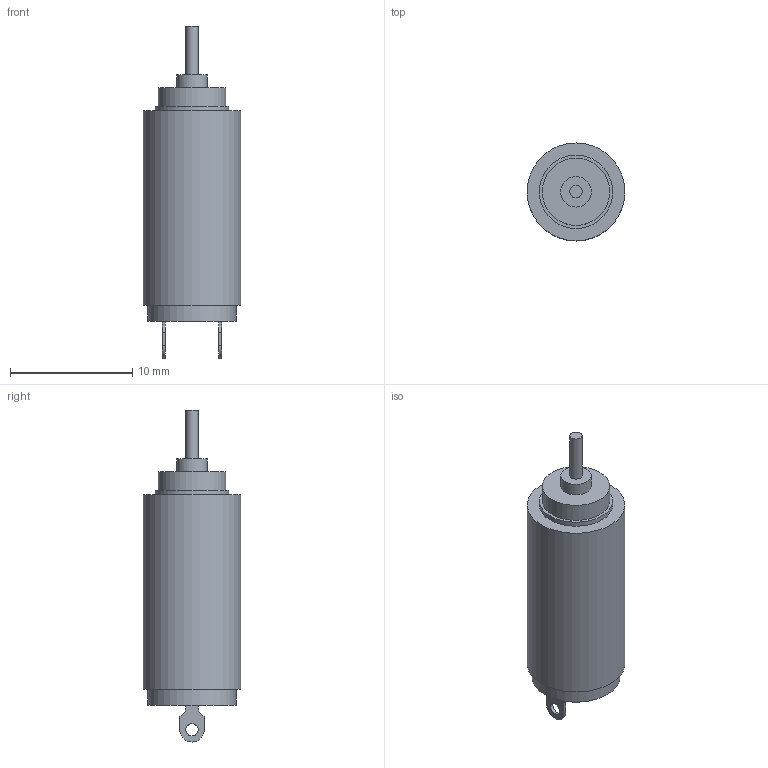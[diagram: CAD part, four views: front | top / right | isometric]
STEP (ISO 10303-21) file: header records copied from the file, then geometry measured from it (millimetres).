
FILE_DESCRIPTION((''),'2;1');
FILE_NAME('G:\Disegni\Progetti\D8500÷D8599\D8514\Motori\A - Da controllare\0816KxxxSR.stp','2013-09-11T11:56:56',('mangiullo'),(''),'Autodesk Inventor 2012','Autodesk Inventor 2012','');
FILE_SCHEMA(('AUTOMOTIVE_DESIGN { 1 0 10303 214 1 1 1 1 }'));
Length unit declared in the file: millimetre
Products named in the file (1): 0816KxxxSR
Bounding box: 8 x 8 x 27.15 mm (x, y, z)
Volume: 909.4 mm3; surface area: 604.9 mm2
Topology: 1 solids, 1 shells, 29 faces, 60 edges, 40 vertices
Faces by surface type: plane 15, cylinder 14
Full cylindrical faces by diameter (mm): 1 x3, 2.5 x1, 5.5 x1, 6 x1, 7.2 x1, 8 x1
Entity records: 785 total; most frequent: DIRECTION 140, CARTESIAN_POINT 122, ORIENTED_EDGE 104, AXIS2_PLACEMENT_3D 58, EDGE_CURVE 52, EDGE_LOOP 48, VERTEX_POINT 40, FACE_OUTER_BOUND 29
